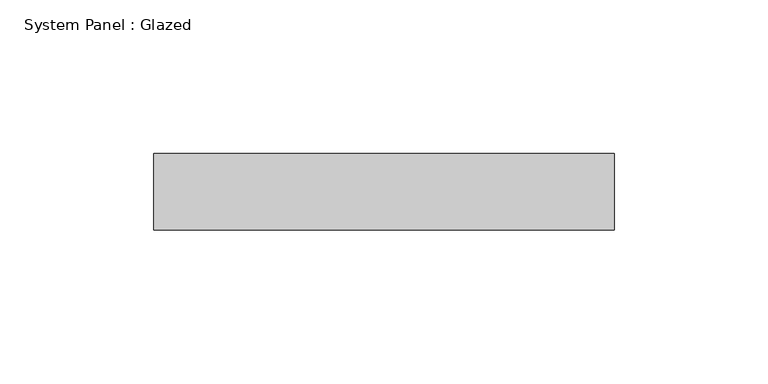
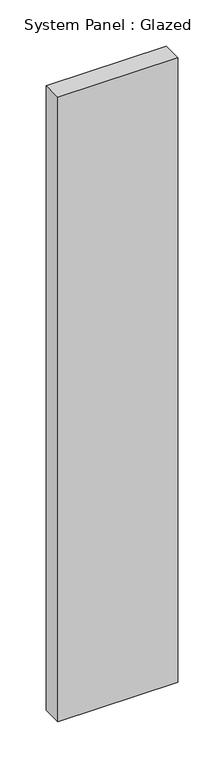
"""IFC4 building model written with IfcOpenShell, lengths in millimetres: plate geometry, System Panel : Glazed."""

from ifc_helpers import new_model, si_unit, origin, origin_with_axes, place, context, project, spatial, polyline, outline, extrude, source, transform, mapped, element, save


def system_panel_glazed_a333d43b(model_context):
    return source(origin(), model_context, "Body", "SweptSolid", [
        extrude(outline(polyline([(75.0, 24.5), (-75.0, 24.5), (-75.0, 49.5), (75.0, 49.5), (75.0, 24.5)])), origin_with_axes(), (0.0, 0.0, 1.0), 825.0),
    ])


if __name__ == "__main__":
    model = new_model("IFC4")
    model_context = context("Model", 3, world=origin())
    ifc_project = project(units=[si_unit("LENGTHUNIT", "METRE", prefix="MILLI")], contexts=[model_context])
    site = spatial("IfcSite", under=ifc_project)
    building = spatial("IfcBuilding", under=site)
    placement = place(None, origin())
    system_panel_glazed_shape = system_panel_glazed_a333d43b(model_context)
    element("IfcPlate", 1, ObjectType="System Panel : Glazed", at=placement, inside=building, context=model_context, shape_type="MappedRepresentation", body=[
        mapped(system_panel_glazed_shape, transform((0.0, 0.0, 0.0), x_axis=(1.0, 0.0, 0.0), y_axis=(0.0, 1.0, 0.0), z_axis=(0.0, 0.0, 1.0))),
    ])
    save(model, "model.ifc")
